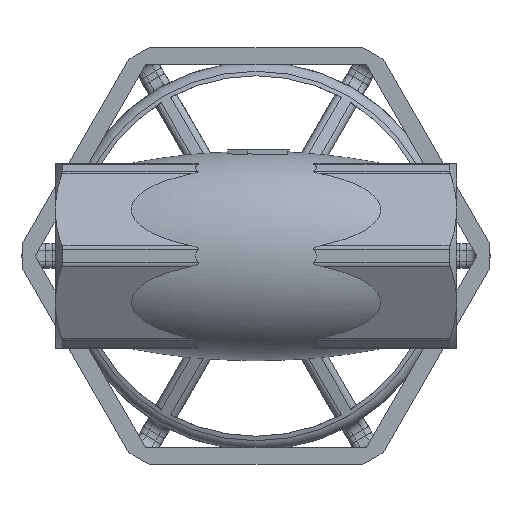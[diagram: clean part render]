
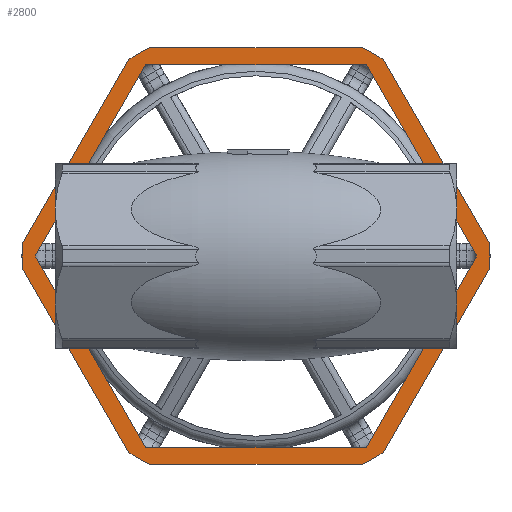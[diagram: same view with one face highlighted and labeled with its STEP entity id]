
A CAD part, front view. The second image highlights one B-rep face of the part: STEP entity #2800.
In plain terms, the highlighted planar face has unit normal (0, -1, 0).
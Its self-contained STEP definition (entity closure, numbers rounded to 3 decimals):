
#2800=ADVANCED_FACE('',(#10399,#10401),#10403,.T.);
#10399=FACE_BOUND('',#10400,.T.);
#10400=EDGE_LOOP('',(#13206,#13207,#13208,#13209,#13210,#13211,#13212,#13213,#13214,
#13215,#13216,#13217));
#10401=FACE_BOUND('',#10402,.T.);
#10402=EDGE_LOOP('',(#13218,#13219,#13220,#13221,#13222,#13223));
#10403=PLANE('',#10404);
#10404=AXIS2_PLACEMENT_3D('',#10405,#10406,#10407);
#10405=CARTESIAN_POINT('',(-30.,94.25,0.));
#10406=DIRECTION('',(0.,-1.,0.));
#10407=DIRECTION('',(-1.,0.,0.));
#13206=ORIENTED_EDGE('',*,*,#14746,.T.);
#13207=ORIENTED_EDGE('',*,*,#14695,.T.);
#13208=ORIENTED_EDGE('',*,*,#14747,.T.);
#13209=ORIENTED_EDGE('',*,*,#14672,.T.);
#13210=ORIENTED_EDGE('',*,*,#14748,.T.);
#13211=ORIENTED_EDGE('',*,*,#14661,.T.);
#13212=ORIENTED_EDGE('',*,*,#14749,.T.);
#13213=ORIENTED_EDGE('',*,*,#14638,.T.);
#13214=ORIENTED_EDGE('',*,*,#14745,.T.);
#13215=ORIENTED_EDGE('',*,*,#14723,.T.);
#13216=ORIENTED_EDGE('',*,*,#14750,.T.);
#13217=ORIENTED_EDGE('',*,*,#14706,.T.);
#13218=ORIENTED_EDGE('',*,*,#14751,.T.);
#13219=ORIENTED_EDGE('',*,*,#14752,.T.);
#13220=ORIENTED_EDGE('',*,*,#14753,.T.);
#13221=ORIENTED_EDGE('',*,*,#14754,.T.);
#13222=ORIENTED_EDGE('',*,*,#14755,.T.);
#13223=ORIENTED_EDGE('',*,*,#14756,.T.);
#14638=EDGE_CURVE('',#16629,#16627,#16630,.T.);
#14661=EDGE_CURVE('',#16665,#16663,#16666,.T.);
#14672=EDGE_CURVE('',#16683,#16681,#16684,.T.);
#14695=EDGE_CURVE('',#16719,#16717,#16720,.T.);
#14706=EDGE_CURVE('',#16737,#16735,#16738,.T.);
#14723=EDGE_CURVE('',#16764,#16762,#16765,.T.);
#14745=EDGE_CURVE('',#16627,#16764,#16795,.T.);
#14746=EDGE_CURVE('',#16735,#16719,#16796,.T.);
#14747=EDGE_CURVE('',#16717,#16683,#16797,.T.);
#14748=EDGE_CURVE('',#16681,#16665,#16798,.T.);
#14749=EDGE_CURVE('',#16663,#16629,#16799,.T.);
#14750=EDGE_CURVE('',#16762,#16737,#16800,.T.);
#14751=EDGE_CURVE('',#16801,#16802,#16803,.F.);
#14752=EDGE_CURVE('',#16802,#16804,#16805,.F.);
#14753=EDGE_CURVE('',#16804,#16806,#16807,.F.);
#14754=EDGE_CURVE('',#16806,#16808,#16809,.F.);
#14755=EDGE_CURVE('',#16808,#16810,#16811,.F.);
#14756=EDGE_CURVE('',#16810,#16801,#16812,.F.);
#16627=VERTEX_POINT('',#29419);
#16629=VERTEX_POINT('',#29423);
#16630=CIRCLE('',#29424,35.);
#16663=VERTEX_POINT('',#29618);
#16665=VERTEX_POINT('',#29622);
#16666=CIRCLE('',#29623,35.);
#16681=VERTEX_POINT('',#29699);
#16683=VERTEX_POINT('',#29703);
#16684=CIRCLE('',#29704,35.);
#16717=VERTEX_POINT('',#29898);
#16719=VERTEX_POINT('',#29902);
#16720=CIRCLE('',#29903,35.);
#16735=VERTEX_POINT('',#29979);
#16737=VERTEX_POINT('',#29983);
#16738=CIRCLE('',#29984,35.);
#16762=VERTEX_POINT('',#30119);
#16764=VERTEX_POINT('',#30123);
#16765=CIRCLE('',#30124,35.);
#16795=LINE('',#30248,#30249);
#16796=LINE('',#30251,#30252);
#16797=LINE('',#30254,#30255);
#16798=LINE('',#30257,#30258);
#16799=LINE('',#30260,#30261);
#16800=LINE('',#30263,#30264);
#16801=VERTEX_POINT('',#30266);
#16802=VERTEX_POINT('',#30267);
#16803=LINE('',#30268,#30269);
#16804=VERTEX_POINT('',#30271);
#16805=LINE('',#30272,#30273);
#16806=VERTEX_POINT('',#30275);
#16807=LINE('',#30276,#30277);
#16808=VERTEX_POINT('',#30279);
#16809=LINE('',#30280,#30281);
#16810=VERTEX_POINT('',#30283);
#16811=LINE('',#30284,#30285);
#16812=LINE('',#30287,#30288);
#29419=CARTESIAN_POINT('',(-45.906,94.25,-31.177));
#29423=CARTESIAN_POINT('',(-49.047,94.25,-29.363));
#29424=AXIS2_PLACEMENT_3D('',#29425,#29426,#29427);
#29425=CARTESIAN_POINT('',(-30.,94.25,0.));
#29426=DIRECTION('',(0.,-1.,0.));
#29427=DIRECTION('',(-0.544,0.,-0.839));
#29618=CARTESIAN_POINT('',(-64.953,94.25,-1.813));
#29622=CARTESIAN_POINT('',(-64.953,94.25,1.813));
#29623=AXIS2_PLACEMENT_3D('',#29624,#29625,#29626);
#29624=CARTESIAN_POINT('',(-30.,94.25,0.));
#29625=DIRECTION('',(0.,-1.,0.));
#29626=DIRECTION('',(-0.999,0.,0.052));
#29699=CARTESIAN_POINT('',(-49.047,94.25,29.363));
#29703=CARTESIAN_POINT('',(-45.906,94.25,31.177));
#29704=AXIS2_PLACEMENT_3D('',#29705,#29706,#29707);
#29705=CARTESIAN_POINT('',(-30.,94.25,0.));
#29706=DIRECTION('',(0.,-1.,0.));
#29707=DIRECTION('',(-0.454,0.,0.891));
#29898=CARTESIAN_POINT('',(-14.094,94.25,31.177));
#29902=CARTESIAN_POINT('',(-10.953,94.25,29.363));
#29903=AXIS2_PLACEMENT_3D('',#29904,#29905,#29906);
#29904=CARTESIAN_POINT('',(-30.,94.25,0.));
#29905=DIRECTION('',(0.,-1.,0.));
#29906=DIRECTION('',(0.544,0.,0.839));
#29979=CARTESIAN_POINT('',(4.953,94.25,1.813));
#29983=CARTESIAN_POINT('',(4.953,94.25,-1.813));
#29984=AXIS2_PLACEMENT_3D('',#29985,#29986,#29987);
#29985=CARTESIAN_POINT('',(-30.,94.25,0.));
#29986=DIRECTION('',(0.,-1.,0.));
#29987=DIRECTION('',(0.999,0.,-0.052));
#30119=CARTESIAN_POINT('',(-10.953,94.25,-29.363));
#30123=CARTESIAN_POINT('',(-14.094,94.25,-31.177));
#30124=AXIS2_PLACEMENT_3D('',#30125,#30126,#30127);
#30125=CARTESIAN_POINT('',(-30.,94.25,0.));
#30126=DIRECTION('',(0.,-1.,0.));
#30127=DIRECTION('',(0.454,0.,-0.891));
#30248=CARTESIAN_POINT('',(-45.906,94.25,-31.177));
#30249=VECTOR('',#30250,1.);
#30250=DIRECTION('',(1.,0.,0.));
#30251=CARTESIAN_POINT('',(4.953,94.25,1.813));
#30252=VECTOR('',#30253,1.);
#30253=DIRECTION('',(-0.5,0.,0.866));
#30254=CARTESIAN_POINT('',(-14.094,94.25,31.177));
#30255=VECTOR('',#30256,1.);
#30256=DIRECTION('',(-1.,0.,0.));
#30257=CARTESIAN_POINT('',(-49.047,94.25,29.363));
#30258=VECTOR('',#30259,1.);
#30259=DIRECTION('',(-0.5,0.,-0.866));
#30260=CARTESIAN_POINT('',(-64.953,94.25,-1.813));
#30261=VECTOR('',#30262,1.);
#30262=DIRECTION('',(0.5,0.,-0.866));
#30263=CARTESIAN_POINT('',(-10.953,94.25,-29.363));
#30264=VECTOR('',#30265,1.);
#30265=DIRECTION('',(0.5,0.,0.866));
#30266=CARTESIAN_POINT('',(-46.5,94.25,28.579));
#30267=CARTESIAN_POINT('',(-13.5,94.25,28.579));
#30268=CARTESIAN_POINT('',(-13.5,94.25,28.579));
#30269=VECTOR('',#30270,1.);
#30270=DIRECTION('',(-1.,0.,0.));
#30271=CARTESIAN_POINT('',(3.,94.25,0.));
#30272=CARTESIAN_POINT('',(3.,94.25,0.));
#30273=VECTOR('',#30274,1.);
#30274=DIRECTION('',(-0.5,0.,0.866));
#30275=CARTESIAN_POINT('',(-13.5,94.25,-28.579));
#30276=CARTESIAN_POINT('',(-13.5,94.25,-28.579));
#30277=VECTOR('',#30278,1.);
#30278=DIRECTION('',(0.5,0.,0.866));
#30279=CARTESIAN_POINT('',(-46.5,94.25,-28.579));
#30280=CARTESIAN_POINT('',(-46.5,94.25,-28.579));
#30281=VECTOR('',#30282,1.);
#30282=DIRECTION('',(1.,0.,0.));
#30283=CARTESIAN_POINT('',(-63.,94.25,0.));
#30284=CARTESIAN_POINT('',(-63.,94.25,0.));
#30285=VECTOR('',#30286,1.);
#30286=DIRECTION('',(0.5,0.,-0.866));
#30287=CARTESIAN_POINT('',(-46.5,94.25,28.579));
#30288=VECTOR('',#30289,1.);
#30289=DIRECTION('',(-0.5,0.,-0.866));
